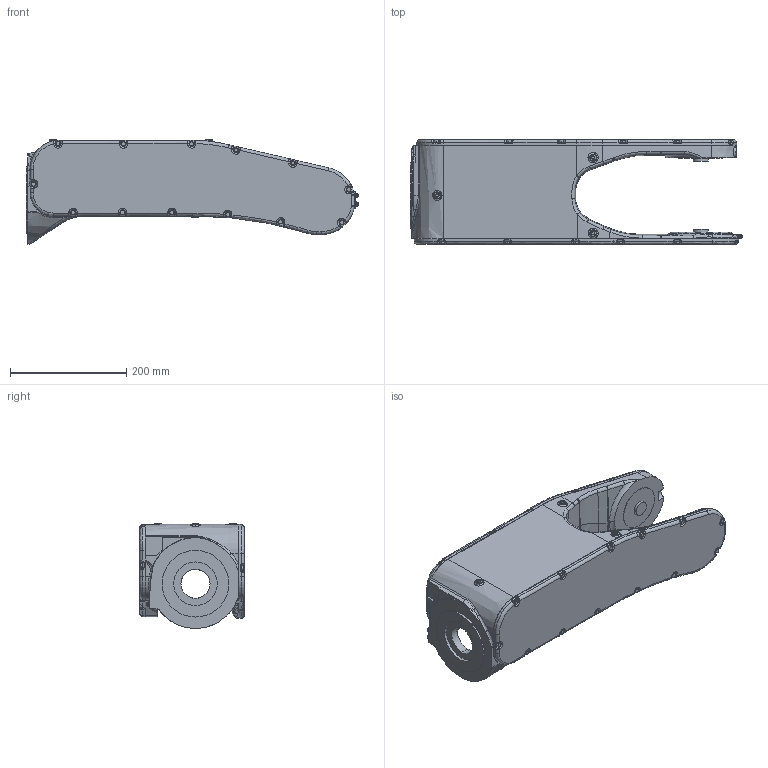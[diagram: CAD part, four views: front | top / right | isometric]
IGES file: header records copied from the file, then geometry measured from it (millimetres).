
Start section:  PTC IGES file: gp25-c00_r-axis.igs
Global section: file name: gp25-c00_r-axis.igs; native system: Creo Parametric by Parametric Technology Corporation; preprocessor: 2015030; author: ip-naka; organization: Unknown; date: 20180604.190555; units: millimetre
Bounding box: 570.9 x 180 x 179.93 mm (x, y, z)
Volume: 7261367.3 mm3; surface area: 417776.9 mm2
Topology: 1 solids, 6 shells, 1306 faces, 3250 edges, 2145 vertices
Faces by surface type: revolution 688, bspline 618
